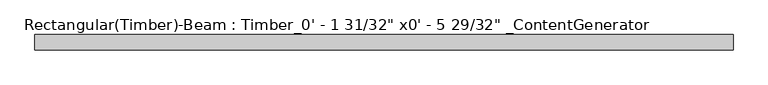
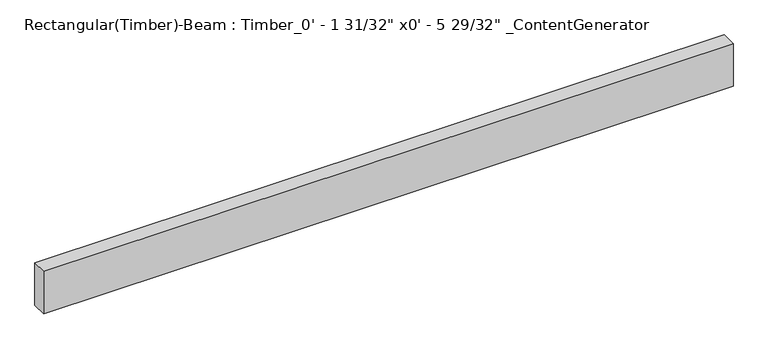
"""IFC4 building model written with IfcOpenShell, lengths in millimetres: beam geometry."""

from ifc_helpers import new_model, si_unit, frame, origin, place, context, project, spatial, polyline, outline, extrude, source, transform, mapped, element, save


def beam_7d02393c(model_context):
    return source(origin(), model_context, "Body", "SweptSolid", [
        extrude(outline(polyline([(1168.3999994, 25.4), (1168.3999994, -25.4), (-1168.4, -25.4), (-1168.4, 25.4), (1168.3999994, 25.4)])), frame((0.0, 0.0, -76.2), z_axis=(0.0, 0.0, 1.0), x_axis=(1.0, 0.0, 0.0)), (0.0, 0.0, 1.0), 152.4),
    ])


if __name__ == "__main__":
    model = new_model("IFC4")
    model_context = context("Model", 3, world=origin())
    ifc_project = project(units=[si_unit("LENGTHUNIT", "METRE", prefix="MILLI")], contexts=[model_context])
    site = spatial("IfcSite", under=ifc_project)
    building = spatial("IfcBuilding", under=site)
    placement = place(None, origin())
    beam_shape = beam_7d02393c(model_context)
    element("IfcBeam", 1, ObjectType="Rectangular(Timber)-Beam : Timber_0' - 1 31/32\" x0' - 5 29/32\" _ContentGenerator", at=placement, inside=building, context=model_context, shape_type="MappedRepresentation", body=[
        mapped(beam_shape, transform((0.0, 0.0, 0.0), x_axis=(1.0, 0.0, 0.0), y_axis=(0.0, 1.0, 0.0), z_axis=(0.0, 0.0, 1.0))),
    ])
    save(model, "model.ifc")
